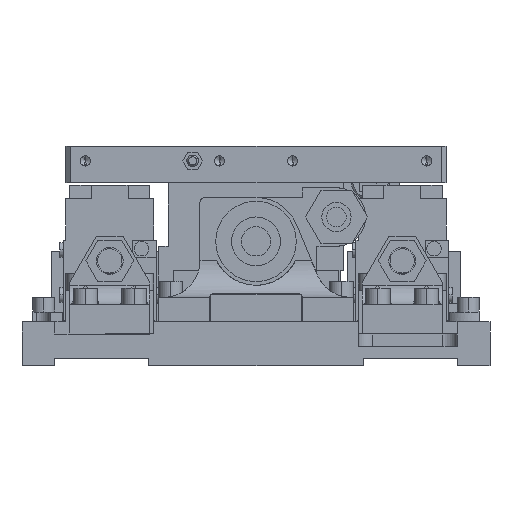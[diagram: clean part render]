
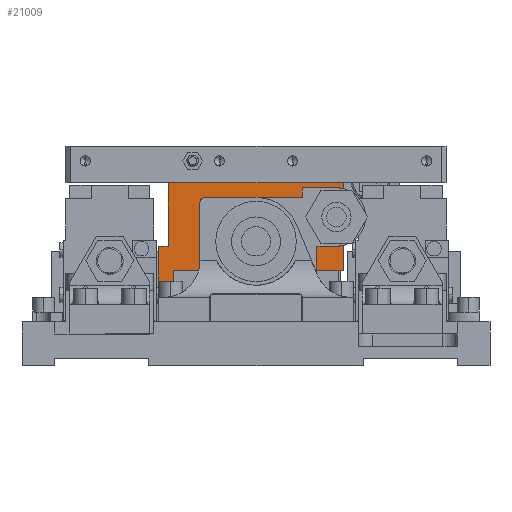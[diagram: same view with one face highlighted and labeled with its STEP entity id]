
A CAD part, left-side view. The second image highlights one B-rep face of the part: STEP entity #21009.
In plain terms, the highlighted planar face has unit normal (-1, 0, 0).
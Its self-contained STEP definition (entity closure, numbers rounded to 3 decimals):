
#108 = VERTEX_POINT ( 'NONE', #1045 ) ;
#260 = CARTESIAN_POINT ( 'NONE',  ( -20.5, 0., -24. ) ) ;
#976 = VERTEX_POINT ( 'NONE', #25641 ) ;
#1009 = EDGE_CURVE ( 'NONE', #31741, #25563, #25655, .T. ) ;
#1045 = CARTESIAN_POINT ( 'NONE',  ( -20.5, -23.5, -20. ) ) ;
#1308 = CARTESIAN_POINT ( 'NONE',  ( -20.5, 40., -26. ) ) ;
#1315 = LINE ( 'NONE', #15519, #17153 ) ;
#1848 = AXIS2_PLACEMENT_3D ( 'NONE', #36815, #10480, #22032 ) ;
#1900 = EDGE_LOOP ( 'NONE', ( #35685, #12932 ) ) ;
#1925 = DIRECTION ( 'NONE',  ( 0., -1., 0. ) ) ;
#2376 = CARTESIAN_POINT ( 'NONE',  ( -20.5, -23.5, -20. ) ) ;
#2529 = EDGE_CURVE ( 'NONE', #32777, #18136, #29340, .T. ) ;
#3257 = DIRECTION ( 'NONE',  ( -1., 0., 0. ) ) ;
#3579 = DIRECTION ( 'NONE',  ( 0., -1., 0. ) ) ;
#3769 = DIRECTION ( 'NONE',  ( 0., 0., 1. ) ) ;
#4300 = CARTESIAN_POINT ( 'NONE',  ( -20.5, 9.5, -24. ) ) ;
#4623 = EDGE_CURVE ( 'NONE', #25563, #31741, #21458, .T. ) ;
#5115 = VECTOR ( 'NONE', #10690, 1000. ) ;
#5162 = AXIS2_PLACEMENT_3D ( 'NONE', #260, #3257, #29163 ) ;
#5200 = DIRECTION ( 'NONE',  ( -1., 0., 0. ) ) ;
#5565 = LINE ( 'NONE', #8795, #12401 ) ;
#5791 = CARTESIAN_POINT ( 'NONE',  ( -20.5, 34., -42. ) ) ;
#5818 = VERTEX_POINT ( 'NONE', #5791 ) ;
#6863 = VERTEX_POINT ( 'NONE', #21694 ) ;
#8025 = FACE_BOUND ( 'NONE', #25850, .T. ) ;
#8324 = EDGE_CURVE ( 'NONE', #6863, #13827, #29498, .T. ) ;
#8795 = CARTESIAN_POINT ( 'NONE',  ( -20.5, 40., -26. ) ) ;
#9214 = VECTOR ( 'NONE', #16976, 1000. ) ;
#9447 = EDGE_CURVE ( 'NONE', #20197, #25553, #5565, .T. ) ;
#9911 = VECTOR ( 'NONE', #24801, 1000. ) ;
#9986 = ORIENTED_EDGE ( 'NONE', *, *, #13987, .T. ) ;
#10284 = ORIENTED_EDGE ( 'NONE', *, *, #26582, .F. ) ;
#10480 = DIRECTION ( 'NONE',  ( 1., 0., 0. ) ) ;
#10690 = DIRECTION ( 'NONE',  ( 0., 0., 1. ) ) ;
#10775 = CARTESIAN_POINT ( 'NONE',  ( -20.5, 36., 0. ) ) ;
#10886 = ORIENTED_EDGE ( 'NONE', *, *, #16060, .T. ) ;
#10892 = VERTEX_POINT ( 'NONE', #18181 ) ;
#11175 = CARTESIAN_POINT ( 'NONE',  ( -20.5, -21.5, -20. ) ) ;
#11269 = DIRECTION ( 'NONE',  ( 0., 1., 0. ) ) ;
#11362 = EDGE_CURVE ( 'NONE', #18306, #10892, #16289, .T. ) ;
#11503 = VECTOR ( 'NONE', #22834, 1000. ) ;
#12080 = VECTOR ( 'NONE', #24211, 1000. ) ;
#12401 = VECTOR ( 'NONE', #31108, 1000. ) ;
#12902 = CARTESIAN_POINT ( 'NONE',  ( -20.5, 34., -36. ) ) ;
#12932 = ORIENTED_EDGE ( 'NONE', *, *, #4623, .F. ) ;
#13827 = VERTEX_POINT ( 'NONE', #21209 ) ;
#13987 = EDGE_CURVE ( 'NONE', #13827, #21280, #16262, .T. ) ;
#14454 = CARTESIAN_POINT ( 'NONE',  ( -20.5, -9.5, -24. ) ) ;
#14839 = EDGE_LOOP ( 'NONE', ( #9986, #15480, #35481, #29418, #27747, #10284, #30407, #31771, #21110 ) ) ;
#15370 = AXIS2_PLACEMENT_3D ( 'NONE', #19584, #5200, #22227 ) ;
#15480 = ORIENTED_EDGE ( 'NONE', *, *, #17433, .F. ) ;
#15519 = CARTESIAN_POINT ( 'NONE',  ( -20.5, 40., -42. ) ) ;
#15802 = VECTOR ( 'NONE', #16427, 1000. ) ;
#16060 = EDGE_CURVE ( 'NONE', #18136, #34829, #29250, .T. ) ;
#16262 = LINE ( 'NONE', #10775, #9911 ) ;
#16289 = LINE ( 'NONE', #27845, #16325 ) ;
#16325 = VECTOR ( 'NONE', #1925, 1000. ) ;
#16374 = VECTOR ( 'NONE', #3769, 1000. ) ;
#16427 = DIRECTION ( 'NONE',  ( 0., 0., -1. ) ) ;
#16724 = PLANE ( 'NONE',  #1848 ) ;
#16756 = CARTESIAN_POINT ( 'NONE',  ( -20.5, 36., -36. ) ) ;
#16976 = DIRECTION ( 'NONE',  ( 0., -1., 0. ) ) ;
#17153 = VECTOR ( 'NONE', #3579, 1000. ) ;
#17433 = EDGE_CURVE ( 'NONE', #25553, #21280, #33406, .T. ) ;
#17587 = EDGE_CURVE ( 'NONE', #6863, #10892, #25666, .T. ) ;
#18136 = VERTEX_POINT ( 'NONE', #36986 ) ;
#18181 = CARTESIAN_POINT ( 'NONE',  ( -20.5, -34., -36. ) ) ;
#18306 = VERTEX_POINT ( 'NONE', #34897 ) ;
#19039 = ORIENTED_EDGE ( 'NONE', *, *, #2529, .T. ) ;
#19584 = CARTESIAN_POINT ( 'NONE',  ( -20.5, 0., -24. ) ) ;
#19797 = CARTESIAN_POINT ( 'NONE',  ( -20.5, 36., -36. ) ) ;
#20131 = VECTOR ( 'NONE', #32955, 1000. ) ;
#20197 = VERTEX_POINT ( 'NONE', #1308 ) ;
#21009 = ADVANCED_FACE ( 'NONE', ( #8025, #24860, #28423 ), #16724, .F. ) ;
#21110 = ORIENTED_EDGE ( 'NONE', *, *, #8324, .T. ) ;
#21209 = CARTESIAN_POINT ( 'NONE',  ( -20.5, -36., 0. ) ) ;
#21280 = VERTEX_POINT ( 'NONE', #35827 ) ;
#21387 = VECTOR ( 'NONE', #34694, 1000. ) ;
#21458 = CIRCLE ( 'NONE', #5162, 9.5 ) ;
#21605 = LINE ( 'NONE', #12902, #20131 ) ;
#21694 = CARTESIAN_POINT ( 'NONE',  ( -20.5, -36., -36. ) ) ;
#21762 = EDGE_CURVE ( 'NONE', #108, #32777, #37259, .T. ) ;
#22032 = DIRECTION ( 'NONE',  ( 0., 1., 0. ) ) ;
#22227 = DIRECTION ( 'NONE',  ( 0., 1., 0. ) ) ;
#22834 = DIRECTION ( 'NONE',  ( 0., 1., 0. ) ) ;
#24211 = DIRECTION ( 'NONE',  ( 0., 0., 1. ) ) ;
#24801 = DIRECTION ( 'NONE',  ( 0., 1., 0. ) ) ;
#24860 = FACE_BOUND ( 'NONE', #1900, .T. ) ;
#25553 = VERTEX_POINT ( 'NONE', #29165 ) ;
#25563 = VERTEX_POINT ( 'NONE', #14454 ) ;
#25641 = CARTESIAN_POINT ( 'NONE',  ( -20.5, 40., -42. ) ) ;
#25655 = CIRCLE ( 'NONE', #15370, 9.5 ) ;
#25666 = LINE ( 'NONE', #19797, #30490 ) ;
#25850 = EDGE_LOOP ( 'NONE', ( #19039, #10886, #26587, #29591 ) ) ;
#26582 = EDGE_CURVE ( 'NONE', #18306, #5818, #21605, .T. ) ;
#26587 = ORIENTED_EDGE ( 'NONE', *, *, #35248, .T. ) ;
#27106 = EDGE_CURVE ( 'NONE', #976, #5818, #1315, .T. ) ;
#27431 = CARTESIAN_POINT ( 'NONE',  ( -20.5, -36., -36. ) ) ;
#27747 = ORIENTED_EDGE ( 'NONE', *, *, #27106, .T. ) ;
#27845 = CARTESIAN_POINT ( 'NONE',  ( -20.5, 36., -36. ) ) ;
#28423 = FACE_OUTER_BOUND ( 'NONE', #14839, .T. ) ;
#28704 = CARTESIAN_POINT ( 'NONE',  ( -20.5, -23.5, -9. ) ) ;
#29163 = DIRECTION ( 'NONE',  ( 0., 1., 0. ) ) ;
#29165 = CARTESIAN_POINT ( 'NONE',  ( -20.5, 36., -26. ) ) ;
#29250 = LINE ( 'NONE', #28704, #9214 ) ;
#29315 = CARTESIAN_POINT ( 'NONE',  ( -20.5, 40., -26. ) ) ;
#29340 = LINE ( 'NONE', #31828, #21387 ) ;
#29418 = ORIENTED_EDGE ( 'NONE', *, *, #35026, .F. ) ;
#29498 = LINE ( 'NONE', #27431, #12080 ) ;
#29591 = ORIENTED_EDGE ( 'NONE', *, *, #21762, .T. ) ;
#30407 = ORIENTED_EDGE ( 'NONE', *, *, #11362, .T. ) ;
#30490 = VECTOR ( 'NONE', #11269, 1000. ) ;
#30809 = CARTESIAN_POINT ( 'NONE',  ( -20.5, -23.5, -9. ) ) ;
#31108 = DIRECTION ( 'NONE',  ( 0., -1., 0. ) ) ;
#31741 = VERTEX_POINT ( 'NONE', #4300 ) ;
#31771 = ORIENTED_EDGE ( 'NONE', *, *, #17587, .F. ) ;
#31828 = CARTESIAN_POINT ( 'NONE',  ( -20.5, -21.5, -9. ) ) ;
#32343 = LINE ( 'NONE', #29315, #16374 ) ;
#32777 = VERTEX_POINT ( 'NONE', #11175 ) ;
#32955 = DIRECTION ( 'NONE',  ( 0., 0., -1. ) ) ;
#32988 = CARTESIAN_POINT ( 'NONE',  ( -20.5, -23.5, -9. ) ) ;
#33406 = LINE ( 'NONE', #16756, #5115 ) ;
#34425 = LINE ( 'NONE', #30809, #15802 ) ;
#34694 = DIRECTION ( 'NONE',  ( 0., 0., 1. ) ) ;
#34829 = VERTEX_POINT ( 'NONE', #32988 ) ;
#34897 = CARTESIAN_POINT ( 'NONE',  ( -20.5, 34., -36. ) ) ;
#35026 = EDGE_CURVE ( 'NONE', #976, #20197, #32343, .T. ) ;
#35248 = EDGE_CURVE ( 'NONE', #34829, #108, #34425, .T. ) ;
#35481 = ORIENTED_EDGE ( 'NONE', *, *, #9447, .F. ) ;
#35685 = ORIENTED_EDGE ( 'NONE', *, *, #1009, .F. ) ;
#35827 = CARTESIAN_POINT ( 'NONE',  ( -20.5, 36., 0. ) ) ;
#36815 = CARTESIAN_POINT ( 'NONE',  ( -20.5, 36., -36. ) ) ;
#36986 = CARTESIAN_POINT ( 'NONE',  ( -20.5, -21.5, -9. ) ) ;
#37259 = LINE ( 'NONE', #2376, #11503 ) ;
